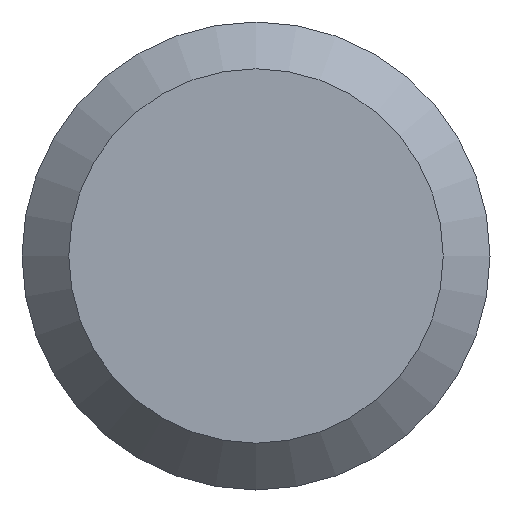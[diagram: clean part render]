
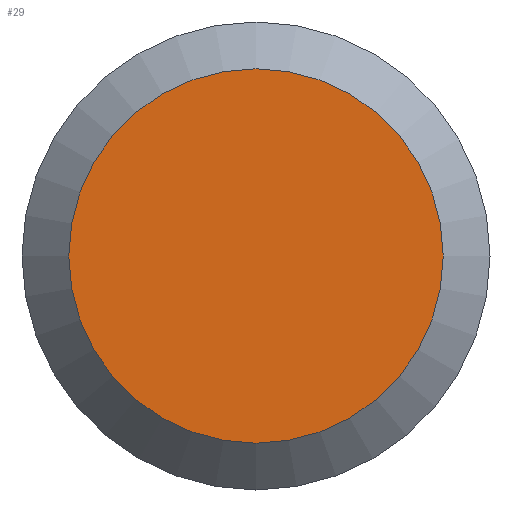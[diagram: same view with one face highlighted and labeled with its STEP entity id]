
A CAD part, left-side view. The second image highlights one B-rep face of the part: STEP entity #29.
In plain terms, the highlighted planar face has unit normal (-1, 0, 0).
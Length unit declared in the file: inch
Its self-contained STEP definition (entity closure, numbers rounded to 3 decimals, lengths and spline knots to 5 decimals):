
#11 = CIRCLE ( 'NONE', #189, 0.0984 ) ;
#14 = CARTESIAN_POINT ( 'NONE',  ( 0., 0., 0. ) ) ;
#29 = ADVANCED_FACE ( 'NONE', ( #128 ), #142, .F. ) ;
#31 = DIRECTION ( 'NONE',  ( 0., 0., -1. ) ) ;
#47 = ORIENTED_EDGE ( 'NONE', *, *, #66, .T. ) ;
#53 = CARTESIAN_POINT ( 'NONE',  ( 0., 0.123, 0. ) ) ;
#66 = EDGE_CURVE ( 'NONE', #160, #160, #11, .T. ) ;
#128 = FACE_OUTER_BOUND ( 'NONE', #154, .T. ) ;
#142 = PLANE ( 'NONE',  #175 ) ;
#145 = DIRECTION ( 'NONE',  ( 1., 0., 0. ) ) ;
#153 = DIRECTION ( 'NONE',  ( -1., 0., 0. ) ) ;
#154 = EDGE_LOOP ( 'NONE', ( #47 ) ) ;
#160 = VERTEX_POINT ( 'NONE', #208 ) ;
#175 = AXIS2_PLACEMENT_3D ( 'NONE', #53, #145, #216 ) ;
#189 = AXIS2_PLACEMENT_3D ( 'NONE', #14, #153, #31 ) ;
#208 = CARTESIAN_POINT ( 'NONE',  ( 0., 0., -0.0984 ) ) ;
#216 = DIRECTION ( 'NONE',  ( 0., 0., -1. ) ) ;
